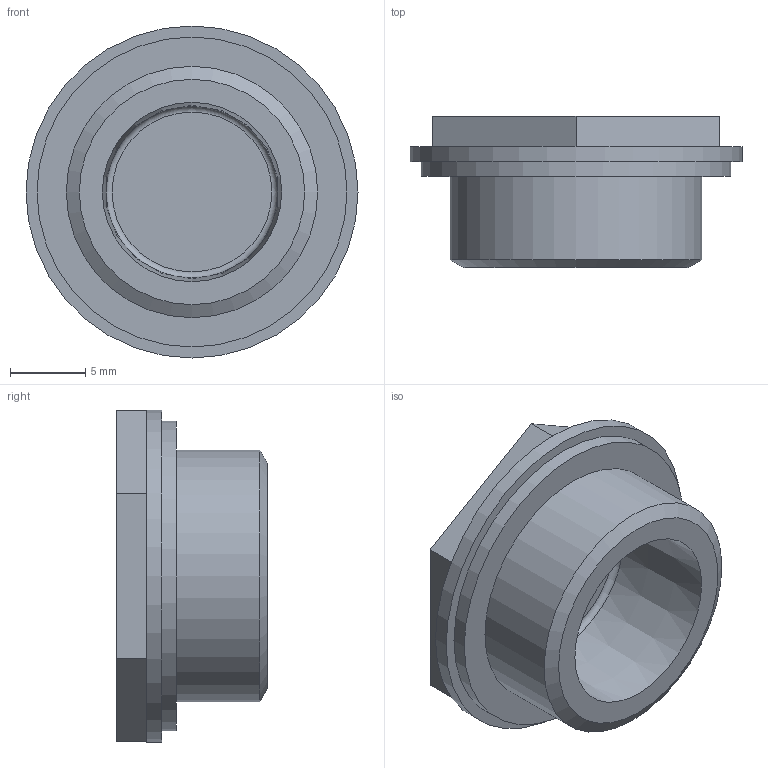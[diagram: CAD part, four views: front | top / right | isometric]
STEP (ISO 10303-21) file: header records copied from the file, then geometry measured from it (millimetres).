
FILE_DESCRIPTION( ( 'STEP AP203' ), '1' );
FILE_NAME( 'C:/Temp/Ganter_Step_05_03_2020/data/3_5/tlt/Oil Level Sight Glass TLT-G3_8.stp', '2020-03-12T13:43:32', ( 'License CC BY-ND 4.0' ), ( 'CADENAS' ), ' ', 'PARTsolutions', ' ' );
FILE_SCHEMA( ( 'CONFIG_CONTROL_DESIGN' ) );
Length unit declared in the file: millimetre
Products named in the file (1): _Oil Level Sight Glass TLT-G3/8
Bounding box: 22 x 10 x 22 mm (x, y, z)
Volume: 1595.8 mm3; surface area: 1607.3 mm2
Topology: 1 solids, 1 shells, 22 faces, 41 edges, 27 vertices
Faces by surface type: plane 14, cylinder 4, cone 3, torus 1
Full cylindrical faces by diameter (mm): 2.499 x1, 16.662 x1, 20.542 x1, 22 x1
Entity records: 546 total; most frequent: DIRECTION 92, CARTESIAN_POINT 81, ORIENTED_EDGE 64, AXIS2_PLACEMENT_3D 37, EDGE_LOOP 36, EDGE_CURVE 32, FACE_OUTER_BOUND 27, VERTEX_POINT 26
